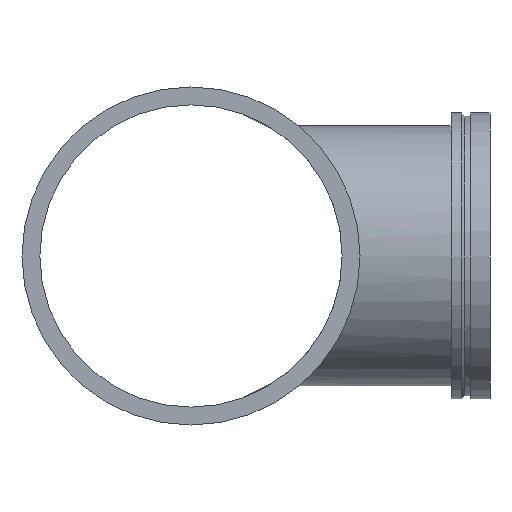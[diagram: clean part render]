
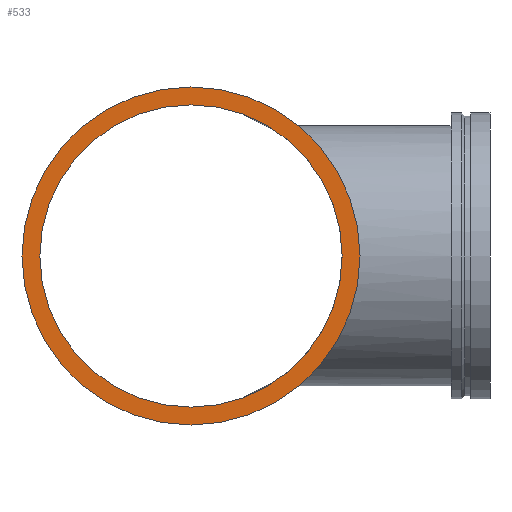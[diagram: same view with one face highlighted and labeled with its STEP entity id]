
A CAD part, left-side view. The second image highlights one B-rep face of the part: STEP entity #533.
In plain terms, the highlighted planar face has unit normal (-1, 0, 0).
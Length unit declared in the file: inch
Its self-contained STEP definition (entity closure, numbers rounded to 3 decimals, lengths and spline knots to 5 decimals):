
#58=FACE_BOUND('',#128,.T.);
#67=PLANE('',#626);
#92=FACE_OUTER_BOUND('',#127,.T.);
#127=EDGE_LOOP('',(#465,#466));
#128=EDGE_LOOP('',(#467,#468));
#151=CIRCLE('',#587,13.);
#152=CIRCLE('',#588,13.);
#175=CIRCLE('',#624,11.625);
#176=CIRCLE('',#625,11.625);
#239=VERTEX_POINT('',#1137);
#240=VERTEX_POINT('',#1139);
#263=VERTEX_POINT('',#1206);
#264=VERTEX_POINT('',#1208);
#299=EDGE_CURVE('',#239,#240,#151,.T.);
#300=EDGE_CURVE('',#240,#239,#152,.T.);
#331=EDGE_CURVE('',#264,#263,#175,.T.);
#332=EDGE_CURVE('',#263,#264,#176,.T.);
#465=ORIENTED_EDGE('',*,*,#300,.F.);
#466=ORIENTED_EDGE('',*,*,#299,.F.);
#467=ORIENTED_EDGE('',*,*,#331,.T.);
#468=ORIENTED_EDGE('',*,*,#332,.T.);
#533=ADVANCED_FACE('',(#92,#58),#67,.T.);
#587=AXIS2_PLACEMENT_3D('',#1140,#716,#717);
#588=AXIS2_PLACEMENT_3D('',#1141,#718,#719);
#624=AXIS2_PLACEMENT_3D('',#1209,#798,#799);
#625=AXIS2_PLACEMENT_3D('',#1210,#800,#801);
#626=AXIS2_PLACEMENT_3D('',#1211,#802,#803);
#716=DIRECTION('center_axis',(1.,0.,0.));
#717=DIRECTION('ref_axis',(0.,0.,1.));
#718=DIRECTION('center_axis',(1.,0.,0.));
#719=DIRECTION('ref_axis',(0.,0.,1.));
#798=DIRECTION('center_axis',(1.,0.,0.));
#799=DIRECTION('ref_axis',(0.,0.,1.));
#800=DIRECTION('center_axis',(1.,0.,0.));
#801=DIRECTION('ref_axis',(0.,0.,1.));
#802=DIRECTION('center_axis',(-1.,0.,0.));
#803=DIRECTION('ref_axis',(0.,0.,-1.));
#1137=CARTESIAN_POINT('',(-23.,13.,0.));
#1139=CARTESIAN_POINT('',(-23.,-13.,0.));
#1140=CARTESIAN_POINT('Origin',(-23.,0.,0.));
#1141=CARTESIAN_POINT('Origin',(-23.,0.,0.));
#1206=CARTESIAN_POINT('',(-23.,11.625,0.));
#1208=CARTESIAN_POINT('',(-23.,-11.625,0.));
#1209=CARTESIAN_POINT('Origin',(-23.,0.,0.));
#1210=CARTESIAN_POINT('Origin',(-23.,0.,0.));
#1211=CARTESIAN_POINT('Origin',(-23.,-13.,0.));
